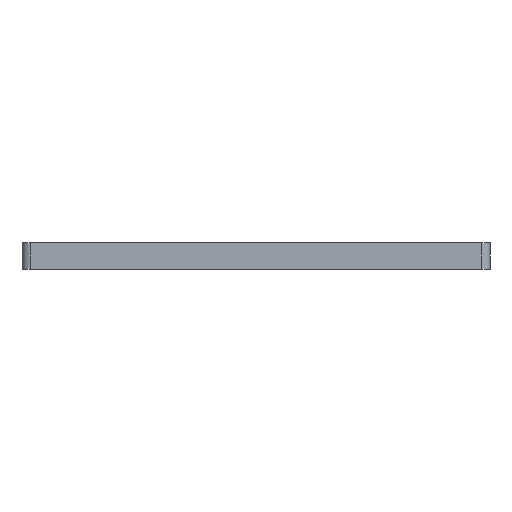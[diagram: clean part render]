
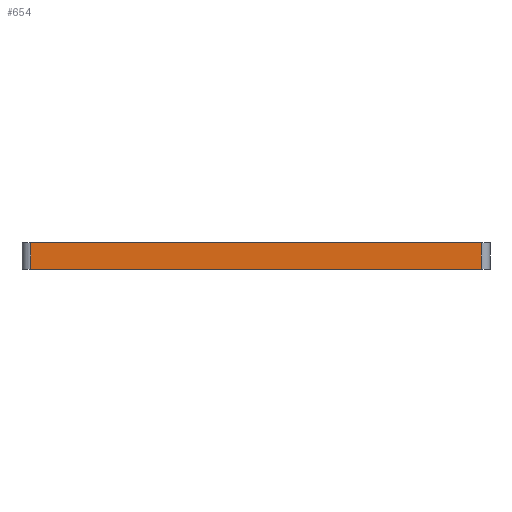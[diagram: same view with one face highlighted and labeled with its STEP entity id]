
A CAD part, front view. The second image highlights one B-rep face of the part: STEP entity #654.
In plain terms, the highlighted planar face has unit normal (0, -1, 0).
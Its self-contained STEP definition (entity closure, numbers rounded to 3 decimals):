
#17 = CARTESIAN_POINT ( 'NONE',  ( 52.5, 0., 3. ) ) ;
#33 = DIRECTION ( 'NONE',  ( 0., 1., 0. ) ) ;
#45 = CARTESIAN_POINT ( 'NONE',  ( 52.5, 0., 0. ) ) ;
#49 = CARTESIAN_POINT ( 'NONE',  ( 51.5, 0., 3. ) ) ;
#88 = ORIENTED_EDGE ( 'NONE', *, *, #508, .T. ) ;
#90 = LINE ( 'NONE', #245, #626 ) ;
#102 = AXIS2_PLACEMENT_3D ( 'NONE', #580, #33, #412 ) ;
#125 = CARTESIAN_POINT ( 'NONE',  ( 1., 0., 3. ) ) ;
#138 = VECTOR ( 'NONE', #253, 1000. ) ;
#173 = DIRECTION ( 'NONE',  ( 0., 0., -1. ) ) ;
#182 = VECTOR ( 'NONE', #173, 1000. ) ;
#232 = EDGE_LOOP ( 'NONE', ( #341, #463, #391, #88 ) ) ;
#234 = LINE ( 'NONE', #125, #182 ) ;
#245 = CARTESIAN_POINT ( 'NONE',  ( 51.5, 0., 3. ) ) ;
#250 = PLANE ( 'NONE',  #102 ) ;
#253 = DIRECTION ( 'NONE',  ( 1., 0., 0. ) ) ;
#271 = VERTEX_POINT ( 'NONE', #578 ) ;
#285 = EDGE_CURVE ( 'NONE', #313, #271, #639, .T. ) ;
#303 = VECTOR ( 'NONE', #561, 1000. ) ;
#313 = VERTEX_POINT ( 'NONE', #636 ) ;
#341 = ORIENTED_EDGE ( 'NONE', *, *, #285, .T. ) ;
#344 = VERTEX_POINT ( 'NONE', #49 ) ;
#391 = ORIENTED_EDGE ( 'NONE', *, *, #428, .F. ) ;
#412 = DIRECTION ( 'NONE',  ( -1., 0., 0. ) ) ;
#428 = EDGE_CURVE ( 'NONE', #667, #344, #675, .T. ) ;
#460 = DIRECTION ( 'NONE',  ( 0., 0., 1. ) ) ;
#463 = ORIENTED_EDGE ( 'NONE', *, *, #700, .T. ) ;
#508 = EDGE_CURVE ( 'NONE', #667, #313, #234, .T. ) ;
#561 = DIRECTION ( 'NONE',  ( 1., 0., 0. ) ) ;
#575 = CARTESIAN_POINT ( 'NONE',  ( 1., 0., 3. ) ) ;
#578 = CARTESIAN_POINT ( 'NONE',  ( 51.5, 0., 0. ) ) ;
#580 = CARTESIAN_POINT ( 'NONE',  ( 52.5, 0., 3. ) ) ;
#583 = FACE_OUTER_BOUND ( 'NONE', #232, .T. ) ;
#626 = VECTOR ( 'NONE', #460, 1000. ) ;
#636 = CARTESIAN_POINT ( 'NONE',  ( 1., 0., 0. ) ) ;
#639 = LINE ( 'NONE', #45, #138 ) ;
#654 = ADVANCED_FACE ( 'NONE', ( #583 ), #250, .F. ) ;
#667 = VERTEX_POINT ( 'NONE', #575 ) ;
#675 = LINE ( 'NONE', #17, #303 ) ;
#700 = EDGE_CURVE ( 'NONE', #271, #344, #90, .T. ) ;
